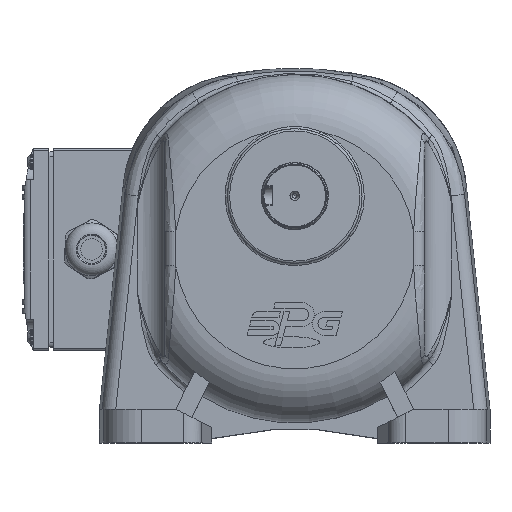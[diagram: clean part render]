
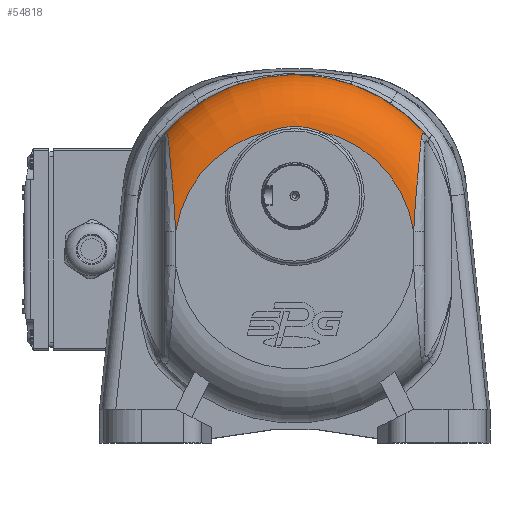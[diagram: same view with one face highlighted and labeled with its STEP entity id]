
A CAD part, top view. The second image highlights one B-rep face of the part: STEP entity #54818.
In plain terms, the highlighted toroidal (fillet/blend) face has major radius 53.545 mm and minor radius 24 mm.
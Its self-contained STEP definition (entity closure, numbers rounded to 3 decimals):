
#480=TOROIDAL_SURFACE('',#60186,53.545,24.);
#2061=B_SPLINE_CURVE_WITH_KNOTS('',3,(#120153,#120154,#120155,#120156,#120157,
#120158,#120159),.UNSPECIFIED.,.F.,.F.,(4,1,1,1,4),(-0.961,
-0.686,-0.412,-0.275,0.),
 .UNSPECIFIED.);
#2062=B_SPLINE_CURVE_WITH_KNOTS('',3,(#120161,#120162,#120163,#120164,#120165,
#120166,#120167,#120168,#120169),.UNSPECIFIED.,.F.,.F.,(4,1,1,1,1,1,4),
(-4.098,-2.927,-2.342,-1.756,
-1.171,-0.585,0.),.UNSPECIFIED.);
#2063=B_SPLINE_CURVE_WITH_KNOTS('',3,(#120173,#120174,#120175,#120176,#120177),
 .UNSPECIFIED.,.F.,.F.,(4,1,4),(-3.142,-0.449,3.142),
 .UNSPECIFIED.);
#2064=B_SPLINE_CURVE_WITH_KNOTS('',3,(#120181,#120182,#120183,#120184,#120185,
#120186,#120187,#120188,#120189),.UNSPECIFIED.,.F.,.F.,(4,1,1,1,1,1,4),
(-9.723,-9.138,-8.553,-7.967,
-7.382,-6.796,-5.626),.UNSPECIFIED.);
#2065=B_SPLINE_CURVE_WITH_KNOTS('',3,(#120190,#120191,#120192,#120193,#120194,
#120195,#120196),.UNSPECIFIED.,.F.,.F.,(4,1,1,1,4),(-0.961,
-0.686,-0.412,-0.275,0.),
 .UNSPECIFIED.);
#9942=FACE_OUTER_BOUND('',#13297,.T.);
#13297=EDGE_LOOP('',(#49120,#49121,#49122,#49123,#49124,#49125,#49126,#49127));
#22366=CIRCLE('',#60187,77.539);
#22367=CIRCLE('',#60188,53.545);
#22368=CIRCLE('',#60189,53.545);
#27031=VERTEX_POINT('',#119876);
#27058=VERTEX_POINT('',#120150);
#27059=VERTEX_POINT('',#120152);
#27060=VERTEX_POINT('',#120160);
#27061=VERTEX_POINT('',#120170);
#27062=VERTEX_POINT('',#120172);
#27063=VERTEX_POINT('',#120178);
#27064=VERTEX_POINT('',#120180);
#34556=EDGE_CURVE('',#27058,#27031,#22366,.T.);
#34557=EDGE_CURVE('',#27059,#27031,#2061,.T.);
#34558=EDGE_CURVE('',#27060,#27059,#2062,.T.);
#34559=EDGE_CURVE('',#27060,#27061,#22367,.T.);
#34560=EDGE_CURVE('',#27062,#27061,#2063,.T.);
#34561=EDGE_CURVE('',#27062,#27063,#22368,.T.);
#34562=EDGE_CURVE('',#27064,#27063,#2064,.T.);
#34563=EDGE_CURVE('',#27058,#27064,#2065,.T.);
#49120=ORIENTED_EDGE('',*,*,#34556,.T.);
#49121=ORIENTED_EDGE('',*,*,#34557,.F.);
#49122=ORIENTED_EDGE('',*,*,#34558,.F.);
#49123=ORIENTED_EDGE('',*,*,#34559,.T.);
#49124=ORIENTED_EDGE('',*,*,#34560,.F.);
#49125=ORIENTED_EDGE('',*,*,#34561,.T.);
#49126=ORIENTED_EDGE('',*,*,#34562,.F.);
#49127=ORIENTED_EDGE('',*,*,#34563,.F.);
#54818=ADVANCED_FACE('',(#9942),#480,.T.);
#60186=AXIS2_PLACEMENT_3D('',#120149,#73306,#73307);
#60187=AXIS2_PLACEMENT_3D('',#120151,#73308,#73309);
#60188=AXIS2_PLACEMENT_3D('',#120171,#73310,#73311);
#60189=AXIS2_PLACEMENT_3D('',#120179,#73312,#73313);
#73306=DIRECTION('center_axis',(0.,0.,-1.));
#73307=DIRECTION('ref_axis',(-1.,0.,0.));
#73308=DIRECTION('center_axis',(0.,0.,1.));
#73309=DIRECTION('ref_axis',(-1.,0.,0.));
#73310=DIRECTION('center_axis',(0.,0.,-1.));
#73311=DIRECTION('ref_axis',(-1.,0.,0.));
#73312=DIRECTION('center_axis',(0.,0.,-1.));
#73313=DIRECTION('ref_axis',(-1.,0.,0.));
#119876=CARTESIAN_POINT('',(-57.791,65.542,12.552));
#120149=CARTESIAN_POINT('Origin',(1.335,15.378,12.));
#120150=CARTESIAN_POINT('',(60.461,65.542,12.552));
#120151=CARTESIAN_POINT('Origin',(1.335,15.378,12.552));
#120152=CARTESIAN_POINT('',(-54.985,64.423,23.368));
#120153=CARTESIAN_POINT('Ctrl Pts',(-54.985,64.423,
23.368));
#120154=CARTESIAN_POINT('Ctrl Pts',(-55.043,65.089,22.474));
#120155=CARTESIAN_POINT('Ctrl Pts',(-55.244,66.257,
20.476));
#120156=CARTESIAN_POINT('Ctrl Pts',(-55.86,66.823,
17.62));
#120157=CARTESIAN_POINT('Ctrl Pts',(-56.733,66.576,
14.883));
#120158=CARTESIAN_POINT('Ctrl Pts',(-57.359,66.02,13.422));
#120159=CARTESIAN_POINT('Ctrl Pts',(-57.791,65.542,
12.552));
#120160=CARTESIAN_POINT('',(-51.665,23.001,36.));
#120161=CARTESIAN_POINT('Ctrl Pts',(-51.665,23.001,
36.));
#120162=CARTESIAN_POINT('Ctrl Pts',(-51.809,26.925,36.));
#120163=CARTESIAN_POINT('Ctrl Pts',(-52.186,32.88,
35.978));
#120164=CARTESIAN_POINT('Ctrl Pts',(-52.877,41.137,
35.208));
#120165=CARTESIAN_POINT('Ctrl Pts',(-53.442,47.366,
34.021));
#120166=CARTESIAN_POINT('Ctrl Pts',(-54.021,53.631,
31.903));
#120167=CARTESIAN_POINT('Ctrl Pts',(-54.56,59.558,
28.572));
#120168=CARTESIAN_POINT('Ctrl Pts',(-54.863,63.002,
25.275));
#120169=CARTESIAN_POINT('Ctrl Pts',(-54.985,64.423,
23.368));
#120170=CARTESIAN_POINT('',(-10.121,67.684,36.));
#120171=CARTESIAN_POINT('Origin',(1.335,15.378,36.));
#120172=CARTESIAN_POINT('',(12.792,67.684,36.));
#120173=CARTESIAN_POINT('Ctrl Pts',(12.792,67.684,36.));
#120174=CARTESIAN_POINT('Ctrl Pts',(9.675,68.9,36.));
#120175=CARTESIAN_POINT('Ctrl Pts',(1.936,70.578,35.965));
#120176=CARTESIAN_POINT('Ctrl Pts',(-5.965,69.306,
36.));
#120177=CARTESIAN_POINT('Ctrl Pts',(-10.121,67.684,
36.));
#120178=CARTESIAN_POINT('',(54.335,23.001,36.));
#120179=CARTESIAN_POINT('Origin',(1.335,15.378,36.));
#120180=CARTESIAN_POINT('',(57.656,64.423,23.368));
#120181=CARTESIAN_POINT('Ctrl Pts',(57.656,64.423,23.368));
#120182=CARTESIAN_POINT('Ctrl Pts',(57.533,63.002,25.275));
#120183=CARTESIAN_POINT('Ctrl Pts',(57.231,59.558,28.572));
#120184=CARTESIAN_POINT('Ctrl Pts',(56.692,53.631,31.903));
#120185=CARTESIAN_POINT('Ctrl Pts',(56.113,47.366,34.021));
#120186=CARTESIAN_POINT('Ctrl Pts',(55.548,41.137,35.208));
#120187=CARTESIAN_POINT('Ctrl Pts',(54.856,32.88,35.978));
#120188=CARTESIAN_POINT('Ctrl Pts',(54.48,26.925,36.));
#120189=CARTESIAN_POINT('Ctrl Pts',(54.335,23.001,36.));
#120190=CARTESIAN_POINT('Ctrl Pts',(60.461,65.542,12.552));
#120191=CARTESIAN_POINT('Ctrl Pts',(60.03,66.02,13.422));
#120192=CARTESIAN_POINT('Ctrl Pts',(59.185,66.776,15.383));
#120193=CARTESIAN_POINT('Ctrl Pts',(58.381,66.762,18.229));
#120194=CARTESIAN_POINT('Ctrl Pts',(57.866,65.952,20.985));
#120195=CARTESIAN_POINT('Ctrl Pts',(57.714,65.089,22.474));
#120196=CARTESIAN_POINT('Ctrl Pts',(57.656,64.423,23.368));
